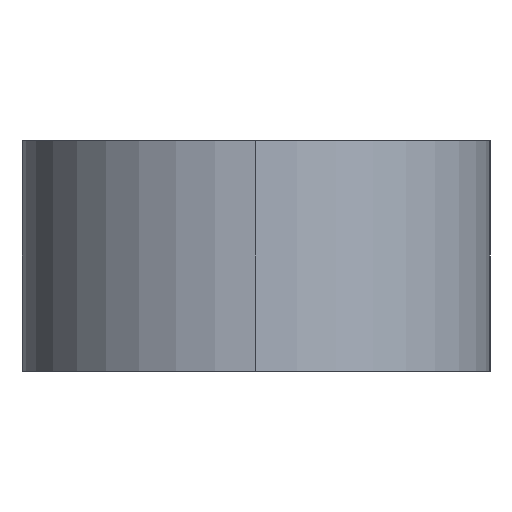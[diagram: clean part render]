
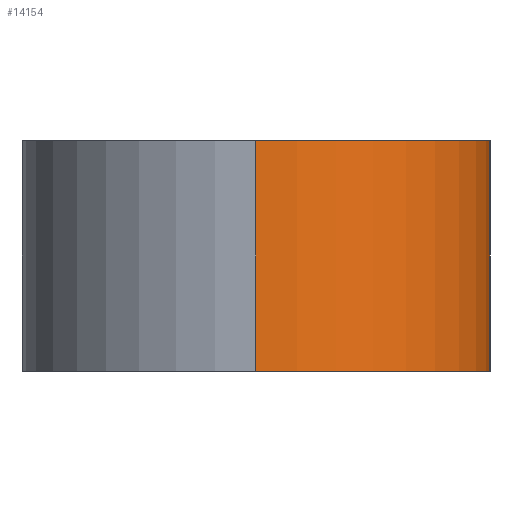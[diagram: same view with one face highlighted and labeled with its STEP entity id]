
A CAD part, left-side view. The second image highlights one B-rep face of the part: STEP entity #14154.
In plain terms, the highlighted cylindrical face has radius 6.2 mm (diameter 12.4 mm), a partial arc.
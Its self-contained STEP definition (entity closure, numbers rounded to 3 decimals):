
#25 = VERTEX_POINT ( 'NONE', #12714 ) ;
#364 = CARTESIAN_POINT ( 'NONE',  ( -50.65, 0., 3.05 ) ) ;
#831 = CARTESIAN_POINT ( 'NONE',  ( -44.45, -6.2, -3.05 ) ) ;
#907 = AXIS2_PLACEMENT_3D ( 'NONE', #4243, #8920, #14678 ) ;
#1726 = LINE ( 'NONE', #6382, #12306 ) ;
#1814 = EDGE_CURVE ( 'NONE', #12088, #12801, #8980, .T. ) ;
#2141 = AXIS2_PLACEMENT_3D ( 'NONE', #8352, #13021, #2535 ) ;
#2491 = VERTEX_POINT ( 'NONE', #364 ) ;
#2535 = DIRECTION ( 'NONE',  ( 1., 0., 0. ) ) ;
#2748 = FACE_OUTER_BOUND ( 'NONE', #5706, .T. ) ;
#3024 = EDGE_CURVE ( 'NONE', #25, #12801, #12657, .T. ) ;
#3091 = DIRECTION ( 'NONE',  ( 0., 0., -1. ) ) ;
#3265 = ORIENTED_EDGE ( 'NONE', *, *, #1814, .F. ) ;
#3707 = AXIS2_PLACEMENT_3D ( 'NONE', #9637, #14156, #9559 ) ;
#4243 = CARTESIAN_POINT ( 'NONE',  ( -44.45, 0., -3.05 ) ) ;
#4738 = CYLINDRICAL_SURFACE ( 'NONE', #3707, 6.2 ) ;
#5114 = EDGE_CURVE ( 'NONE', #2491, #25, #1726, .T. ) ;
#5183 = ORIENTED_EDGE ( 'NONE', *, *, #3024, .T. ) ;
#5706 = EDGE_LOOP ( 'NONE', ( #6225, #12571, #5183, #3265 ) ) ;
#5799 = CIRCLE ( 'NONE', #2141, 6.2 ) ;
#6225 = ORIENTED_EDGE ( 'NONE', *, *, #12578, .F. ) ;
#6382 = CARTESIAN_POINT ( 'NONE',  ( -50.65, 0., 1. ) ) ;
#7477 = VECTOR ( 'NONE', #3091, 1000. ) ;
#8352 = CARTESIAN_POINT ( 'NONE',  ( -44.45, 0., 3.05 ) ) ;
#8697 = DIRECTION ( 'NONE',  ( 0., 0., -1. ) ) ;
#8920 = DIRECTION ( 'NONE',  ( 0., 0., 1. ) ) ;
#8980 = LINE ( 'NONE', #13793, #7477 ) ;
#9559 = DIRECTION ( 'NONE',  ( -1., 0., 0. ) ) ;
#9637 = CARTESIAN_POINT ( 'NONE',  ( -44.45, 0., 1. ) ) ;
#12088 = VERTEX_POINT ( 'NONE', #14428 ) ;
#12306 = VECTOR ( 'NONE', #8697, 1000. ) ;
#12571 = ORIENTED_EDGE ( 'NONE', *, *, #5114, .T. ) ;
#12578 = EDGE_CURVE ( 'NONE', #2491, #12088, #5799, .T. ) ;
#12657 = CIRCLE ( 'NONE', #907, 6.2 ) ;
#12714 = CARTESIAN_POINT ( 'NONE',  ( -50.65, 0., -3.05 ) ) ;
#12801 = VERTEX_POINT ( 'NONE', #831 ) ;
#13021 = DIRECTION ( 'NONE',  ( 0., 0., 1. ) ) ;
#13793 = CARTESIAN_POINT ( 'NONE',  ( -44.45, -6.2, 1. ) ) ;
#14154 = ADVANCED_FACE ( 'NONE', ( #2748 ), #4738, .T. ) ;
#14156 = DIRECTION ( 'NONE',  ( 0., 0., -1. ) ) ;
#14428 = CARTESIAN_POINT ( 'NONE',  ( -44.45, -6.2, 3.05 ) ) ;
#14678 = DIRECTION ( 'NONE',  ( 1., 0., 0. ) ) ;
